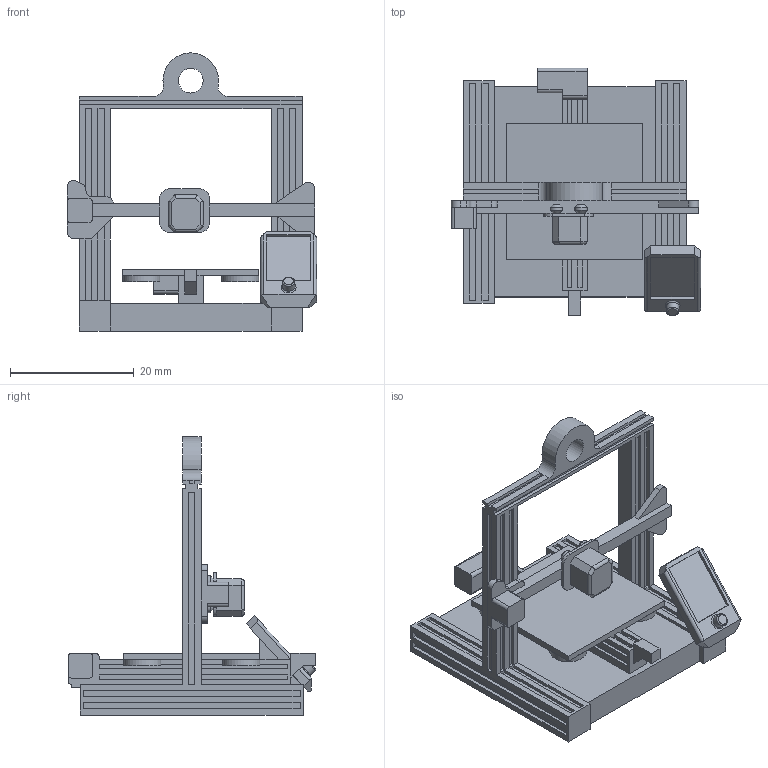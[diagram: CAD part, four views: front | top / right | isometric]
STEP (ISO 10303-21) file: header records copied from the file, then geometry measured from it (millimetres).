
FILE_DESCRIPTION(/* description */ (''),/* implementation_level */ '2;1');
FILE_NAME(/* name */ 'Printer.step',/* time_stamp */ '2025-12-19T09:36:23+01:00',/* author */ (''),/* organization */ (''),/* preprocessor_version */ 'ST-DEVELOPER v20.1',/* originating_system */ 'Autodesk Translation Framework v14.21.0.0',/* authorisation */ '');
FILE_SCHEMA (('AUTOMOTIVE_DESIGN { 1 0 10303 214 3 1 1 }'));
Length unit declared in the file: millimetre
Products named in the file (1): (Unsaved)
Bounding box: 40.31 x 40.07 x 45 mm (x, y, z)
Volume: 8756.4 mm3; surface area: 8469.4 mm2
Topology: 5 solids, 5 shells, 338 faces, 858 edges, 541 vertices
Faces by surface type: plane 286, cylinder 44, cone 6, torus 2
Full cylindrical faces by diameter (mm): 2 x4, 4 x1, 6 x4
Entity records: 9978 total; most frequent: CARTESIAN_POINT 1738, ORIENTED_EDGE 1716, DIRECTION 1635, EDGE_CURVE 858, LINE 759, VECTOR 759, VERTEX_POINT 541, AXIS2_PLACEMENT_3D 438
